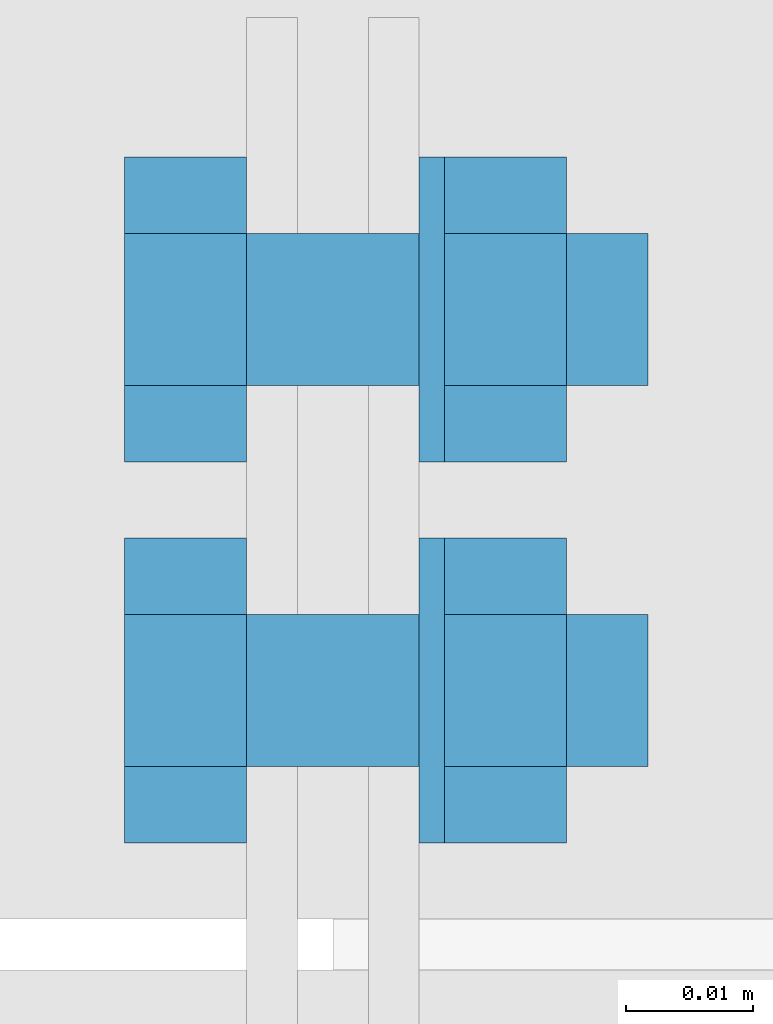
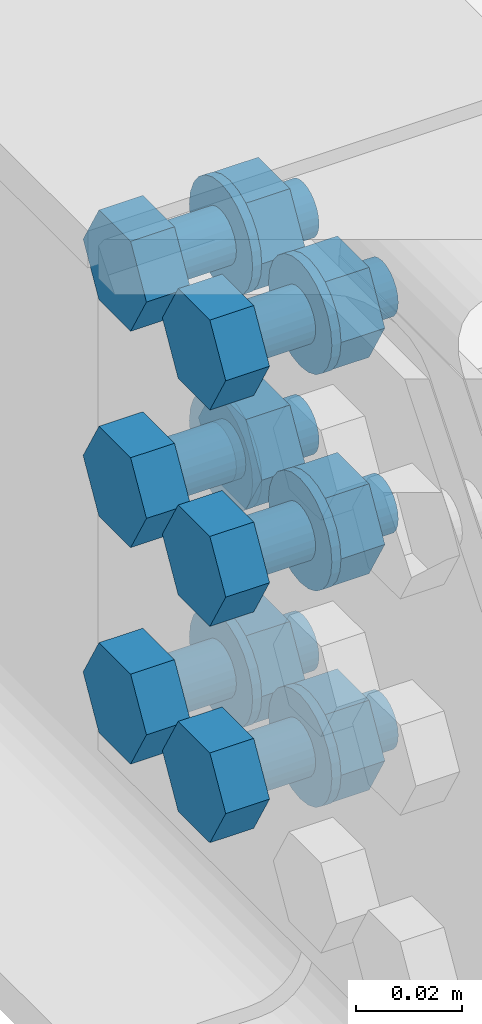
# One storey, part 72 of 84: 39 mechanical fasteners.
"""IFC4 building model written with IfcOpenShell, lengths in metres."""

from ifc_helpers import new_model, si_unit, frame, origin_with_axes, place, context, project, spatial, polyline, outline, extrude, type_object, element, save


model = new_model("IFC4")

# Units and contexts
model_context = context("Model", 3, precision=1e-05, world=origin_with_axes())
ifc_project = project(units=[si_unit("LENGTHUNIT", "METRE"), si_unit("AREAUNIT", "SQUARE_METRE"), si_unit("VOLUMEUNIT", "CUBIC_METRE"), si_unit("MASSUNIT", "GRAM", prefix="KILO"), si_unit("TIMEUNIT", "SECOND"), si_unit("PLANEANGLEUNIT", "RADIAN"), si_unit("SOLIDANGLEUNIT", "STERADIAN"), si_unit("THERMODYNAMICTEMPERATUREUNIT", "DEGREE_CELSIUS")], contexts=[model_context])

# Site, building, storey
placement_1 = place(None, origin_with_axes())
site = spatial("IfcSite", under=ifc_project, at=placement_1, Name="Italia", CompositionType="ELEMENT")
building = spatial("IfcBuilding", under=site, at=placement_1, Name="Tettoia", CompositionType="ELEMENT")
storey_placement = place(None, frame((0.0, 0.0, 4.199999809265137), z_axis=(0.0, 0.0, 1.0), x_axis=(1.0, 0.0, 0.0)))
storey = spatial("IfcBuildingStorey", under=building, at=storey_placement, Name="Storey 1", CompositionType="ELEMENT", Elevation=4.199999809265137)

# Mechanical fasteners
mechanical_fastener_type_1 = type_object("IfcMechanicalFastenerType", Name="Collegamento 0122_0114", PredefinedType="BOLT")
placement_2 = place(placement_1, origin_with_axes())
mechanical_fastener_1_placement = place(placement_2, origin_with_axes())
element("IfcMechanicalFastener", 1, at=mechanical_fastener_1_placement, inside=storey, type_object=mechanical_fastener_type_1, Name="Collegamento 0122_0114", NominalDiameter=0.0119991, context=model_context, shape_type="SweptSolid", body=[
    extrude(outline(polyline([(0.0, 0.0), (0.0119991, 0.0), (0.0179996, -0.0103922), (0.0119991, -0.0207849), (0.0, -0.0207849), (-0.00600052, -0.0103922), (0.0, 0.0)])), frame((0.0932, 16.913, 4.36039), z_axis=(-1.0, 0.0, 0.0), x_axis=(0.0, -1.0, 0.0)), (0.0, 0.0, 1.0), 0.0096),
])
mechanical_fastener_type_2 = type_object("IfcMechanicalFastenerType", Name="Collegamento 0122_0114", PredefinedType="BOLT")
mechanical_fastener_2_placement = place(placement_2, origin_with_axes())
element("IfcMechanicalFastener", 2, at=mechanical_fastener_2_placement, inside=storey, type_object=mechanical_fastener_type_2, Name="Collegamento 0122_0114", NominalDiameter=0.012, context=model_context, shape_type="SweptSolid", body=[
    extrude(outline(polyline([(0.0, 0.0), (-0.000204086, -0.00155306), (-0.000804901, -0.00299978), (-0.00175858, -0.00424242), (-0.00300026, -0.00519609), (-0.00444794, -0.00579548), (-0.00600052, -0.00600004), (-0.0075531, -0.00579548), (-0.00900078, -0.00519609), (-0.0102425, -0.00424242), (-0.0111961, -0.00299978), (-0.011797, -0.00155306), (-0.012001, 0.0), (-0.011797, 0.00155306), (-0.0111961, 0.00299978), (-0.0102425, 0.00424242), (-0.00900078, 0.00519609), (-0.0075531, 0.00579548), (-0.00600052, 0.00600004), (-0.00444794, 0.00579548), (-0.00300026, 0.00519609), (-0.00175858, 0.00424242), (-0.000804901, 0.00299978), (-0.000204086, 0.00155306), (0.0, 0.0)])), frame((0.1248, 16.901, 4.35), z_axis=(-1.0, 0.0, 0.0), x_axis=(0.0, -1.0, 0.0)), (0.0, 0.0, 1.0), 0.0316),
])
mechanical_fastener_type_3 = type_object("IfcMechanicalFastenerType", Name="Collegamento 0122_0114", PredefinedType="BOLT")
mechanical_fastener_3_placement = place(placement_2, origin_with_axes())
element("IfcMechanicalFastener", 3, at=mechanical_fastener_3_placement, inside=storey, type_object=mechanical_fastener_type_3, Name="Collegamento 0122_0114", NominalDiameter=0.0119991, context=model_context, shape_type="SweptSolid", body=[
    extrude(outline(polyline([(0.0, 0.0), (0.0119991, 0.0), (0.0179996, -0.0103922), (0.0119991, -0.0207849), (0.0, -0.0207849), (-0.00600052, -0.0103922), (0.0, 0.0)])), frame((0.1184, 16.913, 4.36039), z_axis=(-1.0, 0.0, 0.0), x_axis=(0.0, -1.0, 0.0)), (0.0, 0.0, 1.0), 0.00960001),
])
mechanical_fastener_type_4 = type_object("IfcMechanicalFastenerType", Name="Collegamento 0122_0114", PredefinedType="BOLT")
mechanical_fastener_4_placement = place(placement_2, origin_with_axes())
element("IfcMechanicalFastener", 4, at=mechanical_fastener_4_placement, inside=storey, type_object=mechanical_fastener_type_4, Name="Collegamento 0122_0114", NominalDiameter=0.024, context=model_context, shape_type="SweptSolid", body=[
    extrude(outline(polyline([(0.0, 0.0), (-0.000408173, -0.00310564), (-0.00160599, -0.00600004), (-0.00351334, -0.00848532), (-0.00599861, -0.0103922), (-0.00889397, -0.011591), (-0.0119991, -0.0120001), (-0.0151043, -0.011591), (-0.0179996, -0.0103922), (-0.0204849, -0.00848532), (-0.0223923, -0.00600004), (-0.0235901, -0.00310564), (-0.0239983, 0.0), (-0.0235901, 0.00310564), (-0.0223923, 0.00600004), (-0.0204849, 0.00848532), (-0.0179996, 0.0103922), (-0.0151043, 0.011591), (-0.0119991, 0.0120001), (-0.00889397, 0.011591), (-0.00599861, 0.0103922), (-0.00351334, 0.00848532), (-0.00160599, 0.00600004), (-0.000408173, 0.00310564), (0.0, 0.0)])), frame((0.1088, 16.895, 4.35), z_axis=(-1.0, 0.0, 0.0), x_axis=(0.0, -1.0, 0.0)), (0.0, 0.0, 1.0), 0.002),
])
mechanical_fastener_type_5 = type_object("IfcMechanicalFastenerType", Name="Collegamento 0122_0114", PredefinedType="BOLT")
mechanical_fastener_5_placement = place(placement_2, origin_with_axes())
element("IfcMechanicalFastener", 5, at=mechanical_fastener_5_placement, inside=storey, type_object=mechanical_fastener_type_5, Name="Collegamento 0122_0114", NominalDiameter=0.0119992, context=model_context, shape_type="SweptSolid", body=[
    extrude(outline(polyline([(0.0, 0.0), (0.012001, 0.0), (0.0179996, -0.0103922), (0.012001, -0.0207849), (0.0, -0.0207849), (-0.00599861, -0.0103922), (0.0, 0.0)])), frame((0.0932, 16.943, 4.36039), z_axis=(-1.0, 0.0, 0.0), x_axis=(0.0, -1.0, 0.0)), (0.0, 0.0, 1.0), 0.0096),
])
mechanical_fastener_type_6 = type_object("IfcMechanicalFastenerType", Name="Collegamento 0122_0114", PredefinedType="BOLT")
mechanical_fastener_6_placement = place(placement_2, origin_with_axes())
element("IfcMechanicalFastener", 6, at=mechanical_fastener_6_placement, inside=storey, type_object=mechanical_fastener_type_6, Name="Collegamento 0122_0114", NominalDiameter=0.012, context=model_context, shape_type="SweptSolid", body=[
    extrude(outline(polyline([(0.0, 0.0), (-0.000204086, -0.00155306), (-0.000804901, -0.00299978), (-0.00175858, -0.00424242), (-0.00300026, -0.00519609), (-0.00444794, -0.00579548), (-0.00600052, -0.00600004), (-0.0075531, -0.00579548), (-0.00900078, -0.00519609), (-0.0102425, -0.00424242), (-0.0111961, -0.00299978), (-0.011797, -0.00155306), (-0.012001, 0.0), (-0.011797, 0.00155306), (-0.0111961, 0.00299978), (-0.0102425, 0.00424242), (-0.00900078, 0.00519609), (-0.0075531, 0.00579548), (-0.00600052, 0.00600004), (-0.00444794, 0.00579548), (-0.00300026, 0.00519609), (-0.00175858, 0.00424242), (-0.000804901, 0.00299978), (-0.000204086, 0.00155306), (0.0, 0.0)])), frame((0.1248, 16.931, 4.35), z_axis=(-1.0, 0.0, 0.0), x_axis=(0.0, -1.0, 0.0)), (0.0, 0.0, 1.0), 0.0316),
])
mechanical_fastener_type_7 = type_object("IfcMechanicalFastenerType", Name="Collegamento 0122_0114", PredefinedType="BOLT")
mechanical_fastener_7_placement = place(placement_2, origin_with_axes())
element("IfcMechanicalFastener", 7, at=mechanical_fastener_7_placement, inside=storey, type_object=mechanical_fastener_type_7, Name="Collegamento 0122_0114", NominalDiameter=0.0119992, context=model_context, shape_type="SweptSolid", body=[
    extrude(outline(polyline([(0.0, 0.0), (0.012001, 0.0), (0.0179996, -0.0103922), (0.012001, -0.0207849), (0.0, -0.0207849), (-0.00599861, -0.0103922), (0.0, 0.0)])), frame((0.1184, 16.943, 4.36039), z_axis=(-1.0, 0.0, 0.0), x_axis=(0.0, -1.0, 0.0)), (0.0, 0.0, 1.0), 0.00960001),
])
mechanical_fastener_type_8 = type_object("IfcMechanicalFastenerType", Name="Collegamento 0122_0114", PredefinedType="BOLT")
mechanical_fastener_8_placement = place(placement_2, origin_with_axes())
element("IfcMechanicalFastener", 8, at=mechanical_fastener_8_placement, inside=storey, type_object=mechanical_fastener_type_8, Name="Collegamento 0122_0114", NominalDiameter=0.024, context=model_context, shape_type="SweptSolid", body=[
    extrude(outline(polyline([(0.0, 0.0), (-0.000408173, -0.00310564), (-0.00160599, -0.00600004), (-0.00351334, -0.00848532), (-0.00599861, -0.0103922), (-0.00889397, -0.011591), (-0.0119991, -0.0120001), (-0.0151043, -0.011591), (-0.0179996, -0.0103922), (-0.0204849, -0.00848532), (-0.0223923, -0.00600004), (-0.0235901, -0.00310564), (-0.0239983, 0.0), (-0.0235901, 0.00310564), (-0.0223923, 0.00600004), (-0.0204849, 0.00848532), (-0.0179996, 0.0103922), (-0.0151043, 0.011591), (-0.0119991, 0.0120001), (-0.00889397, 0.011591), (-0.00599861, 0.0103922), (-0.00351334, 0.00848532), (-0.00160599, 0.00600004), (-0.000408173, 0.00310564), (0.0, 0.0)])), frame((0.1088, 16.925, 4.35), z_axis=(-1.0, 0.0, 0.0), x_axis=(0.0, -1.0, 0.0)), (0.0, 0.0, 1.0), 0.002),
])
mechanical_fastener_type_9 = type_object("IfcMechanicalFastenerType", Name="Collegamento 0122_0114", PredefinedType="BOLT")
mechanical_fastener_9_placement = place(placement_2, origin_with_axes())
element("IfcMechanicalFastener", 9, at=mechanical_fastener_9_placement, inside=storey, type_object=mechanical_fastener_type_9, Name="Collegamento 0122_0114", NominalDiameter=0.0119991, context=model_context, shape_type="SweptSolid", body=[
    extrude(outline(polyline([(0.0, 0.0), (0.0119991, 0.0), (0.0179996, -0.0103922), (0.0119991, -0.0207844), (0.0, -0.0207844), (-0.00600052, -0.0103922), (0.0, 0.0)])), frame((0.0932, 16.913, 4.31039), z_axis=(-1.0, 0.0, 0.0), x_axis=(0.0, -1.0, 0.0)), (0.0, 0.0, 1.0), 0.0096),
])
mechanical_fastener_type_10 = type_object("IfcMechanicalFastenerType", Name="Collegamento 0122_0114", PredefinedType="BOLT")
mechanical_fastener_10_placement = place(placement_2, origin_with_axes())
element("IfcMechanicalFastener", 10, at=mechanical_fastener_10_placement, inside=storey, type_object=mechanical_fastener_type_10, Name="Collegamento 0122_0114", NominalDiameter=0.012, context=model_context, shape_type="SweptSolid", body=[
    extrude(outline(polyline([(0.0, 0.0), (-0.000204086, -0.00155306), (-0.000804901, -0.00299978), (-0.00175858, -0.00424242), (-0.00300026, -0.00519609), (-0.00444794, -0.00579548), (-0.00600052, -0.00600004), (-0.0075531, -0.00579548), (-0.00900078, -0.00519609), (-0.0102425, -0.00424242), (-0.0111961, -0.00299978), (-0.011797, -0.00155306), (-0.012001, 0.0), (-0.011797, 0.00155306), (-0.0111961, 0.00299978), (-0.0102425, 0.00424242), (-0.00900078, 0.00519609), (-0.0075531, 0.00579548), (-0.00600052, 0.00600004), (-0.00444794, 0.00579548), (-0.00300026, 0.00519609), (-0.00175858, 0.00424242), (-0.000804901, 0.00299978), (-0.000204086, 0.00155306), (0.0, 0.0)])), frame((0.1248, 16.901, 4.3), z_axis=(-1.0, 0.0, 0.0), x_axis=(0.0, -1.0, 0.0)), (0.0, 0.0, 1.0), 0.0316),
])
mechanical_fastener_type_11 = type_object("IfcMechanicalFastenerType", Name="Collegamento 0122_0114", PredefinedType="BOLT")
mechanical_fastener_11_placement = place(placement_2, origin_with_axes())
element("IfcMechanicalFastener", 11, at=mechanical_fastener_11_placement, inside=storey, type_object=mechanical_fastener_type_11, Name="Collegamento 0122_0114", NominalDiameter=0.0119991, context=model_context, shape_type="SweptSolid", body=[
    extrude(outline(polyline([(0.0, 0.0), (0.0119991, 0.0), (0.0179996, -0.0103922), (0.0119991, -0.0207844), (0.0, -0.0207844), (-0.00600052, -0.0103922), (0.0, 0.0)])), frame((0.1184, 16.913, 4.31039), z_axis=(-1.0, 0.0, 0.0), x_axis=(0.0, -1.0, 0.0)), (0.0, 0.0, 1.0), 0.00960001),
])
mechanical_fastener_type_12 = type_object("IfcMechanicalFastenerType", Name="Collegamento 0122_0114", PredefinedType="BOLT")
mechanical_fastener_12_placement = place(placement_2, origin_with_axes())
element("IfcMechanicalFastener", 12, at=mechanical_fastener_12_placement, inside=storey, type_object=mechanical_fastener_type_12, Name="Collegamento 0122_0114", NominalDiameter=0.024, context=model_context, shape_type="SweptSolid", body=[
    extrude(outline(polyline([(0.0, 0.0), (-0.000408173, -0.00310564), (-0.00160599, -0.00600004), (-0.00351334, -0.00848532), (-0.00599861, -0.0103922), (-0.00889397, -0.011591), (-0.0119991, -0.0120001), (-0.0151043, -0.011591), (-0.0179996, -0.0103922), (-0.0204849, -0.00848532), (-0.0223923, -0.00600004), (-0.0235901, -0.00310564), (-0.0239983, 0.0), (-0.0235901, 0.00310564), (-0.0223923, 0.00600004), (-0.0204849, 0.00848532), (-0.0179996, 0.0103922), (-0.0151043, 0.011591), (-0.0119991, 0.0120001), (-0.00889397, 0.011591), (-0.00599861, 0.0103922), (-0.00351334, 0.00848532), (-0.00160599, 0.00600004), (-0.000408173, 0.00310564), (0.0, 0.0)])), frame((0.1088, 16.895, 4.3), z_axis=(-1.0, 0.0, 0.0), x_axis=(0.0, -1.0, 0.0)), (0.0, 0.0, 1.0), 0.002),
])
mechanical_fastener_type_13 = type_object("IfcMechanicalFastenerType", Name="Collegamento 0122_0114", PredefinedType="BOLT")
mechanical_fastener_13_placement = place(placement_2, origin_with_axes())
element("IfcMechanicalFastener", 13, at=mechanical_fastener_13_placement, inside=storey, type_object=mechanical_fastener_type_13, Name="Collegamento 0122_0114", NominalDiameter=0.0119992, context=model_context, shape_type="SweptSolid", body=[
    extrude(outline(polyline([(0.0, 0.0), (0.012001, 0.0), (0.0179996, -0.0103922), (0.012001, -0.0207844), (0.0, -0.0207844), (-0.00599861, -0.0103922), (0.0, 0.0)])), frame((0.0932, 16.943, 4.31039), z_axis=(-1.0, 0.0, 0.0), x_axis=(0.0, -1.0, 0.0)), (0.0, 0.0, 1.0), 0.0096),
])
mechanical_fastener_type_14 = type_object("IfcMechanicalFastenerType", Name="Collegamento 0122_0114", PredefinedType="BOLT")
mechanical_fastener_14_placement = place(placement_2, origin_with_axes())
element("IfcMechanicalFastener", 14, at=mechanical_fastener_14_placement, inside=storey, type_object=mechanical_fastener_type_14, Name="Collegamento 0122_0114", NominalDiameter=0.012, context=model_context, shape_type="SweptSolid", body=[
    extrude(outline(polyline([(0.0, 0.0), (-0.000204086, -0.00155306), (-0.000804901, -0.00299978), (-0.00175858, -0.00424242), (-0.00300026, -0.00519609), (-0.00444794, -0.00579548), (-0.00600052, -0.00600004), (-0.0075531, -0.00579548), (-0.00900078, -0.00519609), (-0.0102425, -0.00424242), (-0.0111961, -0.00299978), (-0.011797, -0.00155306), (-0.012001, 0.0), (-0.011797, 0.00155306), (-0.0111961, 0.00299978), (-0.0102425, 0.00424242), (-0.00900078, 0.00519609), (-0.0075531, 0.00579548), (-0.00600052, 0.00600004), (-0.00444794, 0.00579548), (-0.00300026, 0.00519609), (-0.00175858, 0.00424242), (-0.000804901, 0.00299978), (-0.000204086, 0.00155306), (0.0, 0.0)])), frame((0.1248, 16.931, 4.3), z_axis=(-1.0, 0.0, 0.0), x_axis=(0.0, -1.0, 0.0)), (0.0, 0.0, 1.0), 0.0316),
])
mechanical_fastener_type_15 = type_object("IfcMechanicalFastenerType", Name="Collegamento 0122_0114", PredefinedType="BOLT")
mechanical_fastener_15_placement = place(placement_2, origin_with_axes())
element("IfcMechanicalFastener", 15, at=mechanical_fastener_15_placement, inside=storey, type_object=mechanical_fastener_type_15, Name="Collegamento 0122_0114", NominalDiameter=0.0119992, context=model_context, shape_type="SweptSolid", body=[
    extrude(outline(polyline([(0.0, 0.0), (0.012001, 0.0), (0.0179996, -0.0103922), (0.012001, -0.0207844), (0.0, -0.0207844), (-0.00599861, -0.0103922), (0.0, 0.0)])), frame((0.1184, 16.943, 4.31039), z_axis=(-1.0, 0.0, 0.0), x_axis=(0.0, -1.0, 0.0)), (0.0, 0.0, 1.0), 0.00960001),
])
mechanical_fastener_type_16 = type_object("IfcMechanicalFastenerType", Name="Collegamento 0122_0114", PredefinedType="BOLT")
mechanical_fastener_16_placement = place(placement_2, origin_with_axes())
element("IfcMechanicalFastener", 16, at=mechanical_fastener_16_placement, inside=storey, type_object=mechanical_fastener_type_16, Name="Collegamento 0122_0114", NominalDiameter=0.024, context=model_context, shape_type="SweptSolid", body=[
    extrude(outline(polyline([(0.0, 0.0), (-0.000408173, -0.00310564), (-0.00160599, -0.00600004), (-0.00351334, -0.00848532), (-0.00599861, -0.0103922), (-0.00889397, -0.011591), (-0.0119991, -0.0120001), (-0.0151043, -0.011591), (-0.0179996, -0.0103922), (-0.0204849, -0.00848532), (-0.0223923, -0.00600004), (-0.0235901, -0.00310564), (-0.0239983, 0.0), (-0.0235901, 0.00310564), (-0.0223923, 0.00600004), (-0.0204849, 0.00848532), (-0.0179996, 0.0103922), (-0.0151043, 0.011591), (-0.0119991, 0.0120001), (-0.00889397, 0.011591), (-0.00599861, 0.0103922), (-0.00351334, 0.00848532), (-0.00160599, 0.00600004), (-0.000408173, 0.00310564), (0.0, 0.0)])), frame((0.1088, 16.925, 4.3), z_axis=(-1.0, 0.0, 0.0), x_axis=(0.0, -1.0, 0.0)), (0.0, 0.0, 1.0), 0.002),
])
mechanical_fastener_type_17 = type_object("IfcMechanicalFastenerType", Name="Collegamento 0122_0114", PredefinedType="BOLT")
mechanical_fastener_17_placement = place(placement_2, origin_with_axes())
element("IfcMechanicalFastener", 17, at=mechanical_fastener_17_placement, inside=storey, type_object=mechanical_fastener_type_17, Name="Collegamento 0122_0114", NominalDiameter=0.0119991, context=model_context, shape_type="SweptSolid", body=[
    extrude(outline(polyline([(0.0, 0.0), (0.0119991, 0.0), (0.0179996, -0.0103927), (0.0119991, -0.0207849), (0.0, -0.0207849), (-0.00600052, -0.0103927), (0.0, 0.0)])), frame((0.0932, 16.913, 4.26039), z_axis=(-1.0, 0.0, 0.0), x_axis=(0.0, -1.0, 0.0)), (0.0, 0.0, 1.0), 0.0096),
])
mechanical_fastener_type_18 = type_object("IfcMechanicalFastenerType", Name="Collegamento 0122_0114", PredefinedType="BOLT")
mechanical_fastener_18_placement = place(placement_2, origin_with_axes())
element("IfcMechanicalFastener", 18, at=mechanical_fastener_18_placement, inside=storey, type_object=mechanical_fastener_type_18, Name="Collegamento 0122_0114", NominalDiameter=0.012, context=model_context, shape_type="SweptSolid", body=[
    extrude(outline(polyline([(0.0, 0.0), (-0.000204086, -0.00155306), (-0.000804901, -0.00299978), (-0.00175858, -0.00424242), (-0.00300026, -0.00519609), (-0.00444794, -0.00579548), (-0.00600052, -0.00600004), (-0.0075531, -0.00579548), (-0.00900078, -0.00519609), (-0.0102425, -0.00424242), (-0.0111961, -0.00299978), (-0.011797, -0.00155306), (-0.012001, 0.0), (-0.011797, 0.00155306), (-0.0111961, 0.00299978), (-0.0102425, 0.00424242), (-0.00900078, 0.00519609), (-0.0075531, 0.00579548), (-0.00600052, 0.00600004), (-0.00444794, 0.00579548), (-0.00300026, 0.00519609), (-0.00175858, 0.00424242), (-0.000804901, 0.00299978), (-0.000204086, 0.00155306), (0.0, 0.0)])), frame((0.1248, 16.901, 4.25), z_axis=(-1.0, 0.0, 0.0), x_axis=(0.0, -1.0, 0.0)), (0.0, 0.0, 1.0), 0.0316),
])
mechanical_fastener_type_19 = type_object("IfcMechanicalFastenerType", Name="Collegamento 0122_0114", PredefinedType="BOLT")
mechanical_fastener_19_placement = place(placement_2, origin_with_axes())
element("IfcMechanicalFastener", 19, at=mechanical_fastener_19_placement, inside=storey, type_object=mechanical_fastener_type_19, Name="Collegamento 0122_0114", NominalDiameter=0.0119991, context=model_context, shape_type="SweptSolid", body=[
    extrude(outline(polyline([(0.0, 0.0), (0.0119991, 0.0), (0.0179996, -0.0103927), (0.0119991, -0.0207849), (0.0, -0.0207849), (-0.00600052, -0.0103927), (0.0, 0.0)])), frame((0.1184, 16.913, 4.26039), z_axis=(-1.0, 0.0, 0.0), x_axis=(0.0, -1.0, 0.0)), (0.0, 0.0, 1.0), 0.00960001),
])
mechanical_fastener_type_20 = type_object("IfcMechanicalFastenerType", Name="Collegamento 0122_0114", PredefinedType="BOLT")
mechanical_fastener_20_placement = place(placement_2, origin_with_axes())
element("IfcMechanicalFastener", 20, at=mechanical_fastener_20_placement, inside=storey, type_object=mechanical_fastener_type_20, Name="Collegamento 0122_0114", NominalDiameter=0.024, context=model_context, shape_type="SweptSolid", body=[
    extrude(outline(polyline([(0.0, 0.0), (-0.000408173, -0.00310564), (-0.00160599, -0.00600004), (-0.00351334, -0.00848532), (-0.00599861, -0.0103922), (-0.00889397, -0.011591), (-0.0119991, -0.0120001), (-0.0151043, -0.011591), (-0.0179996, -0.0103922), (-0.0204849, -0.00848532), (-0.0223923, -0.00600004), (-0.0235901, -0.00310564), (-0.0239983, 0.0), (-0.0235901, 0.00310564), (-0.0223923, 0.00600004), (-0.0204849, 0.00848532), (-0.0179996, 0.0103922), (-0.0151043, 0.011591), (-0.0119991, 0.0120001), (-0.00889397, 0.011591), (-0.00599861, 0.0103922), (-0.00351334, 0.00848532), (-0.00160599, 0.00600004), (-0.000408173, 0.00310564), (0.0, 0.0)])), frame((0.1088, 16.895, 4.25), z_axis=(-1.0, 0.0, 0.0), x_axis=(0.0, -1.0, 0.0)), (0.0, 0.0, 1.0), 0.002),
])
mechanical_fastener_type_21 = type_object("IfcMechanicalFastenerType", Name="Collegamento 0122_0114", PredefinedType="BOLT")
mechanical_fastener_21_placement = place(placement_2, origin_with_axes())
element("IfcMechanicalFastener", 21, at=mechanical_fastener_21_placement, inside=storey, type_object=mechanical_fastener_type_21, Name="Collegamento 0122_0114", NominalDiameter=0.0119992, context=model_context, shape_type="SweptSolid", body=[
    extrude(outline(polyline([(0.0, 0.0), (0.012001, 0.0), (0.0179996, -0.0103927), (0.012001, -0.0207849), (0.0, -0.0207849), (-0.00599861, -0.0103927), (0.0, 0.0)])), frame((0.0932, 16.943, 4.26039), z_axis=(-1.0, 0.0, 0.0), x_axis=(0.0, -1.0, 0.0)), (0.0, 0.0, 1.0), 0.0096),
])
mechanical_fastener_type_22 = type_object("IfcMechanicalFastenerType", Name="Collegamento 0122_0114", PredefinedType="BOLT")
mechanical_fastener_22_placement = place(placement_2, origin_with_axes())
element("IfcMechanicalFastener", 22, at=mechanical_fastener_22_placement, inside=storey, type_object=mechanical_fastener_type_22, Name="Collegamento 0122_0114", NominalDiameter=0.012, context=model_context, shape_type="SweptSolid", body=[
    extrude(outline(polyline([(0.0, 0.0), (-0.000204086, -0.00155306), (-0.000804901, -0.00299978), (-0.00175858, -0.00424242), (-0.00300026, -0.00519609), (-0.00444794, -0.00579548), (-0.00600052, -0.00600004), (-0.0075531, -0.00579548), (-0.00900078, -0.00519609), (-0.0102425, -0.00424242), (-0.0111961, -0.00299978), (-0.011797, -0.00155306), (-0.012001, 0.0), (-0.011797, 0.00155306), (-0.0111961, 0.00299978), (-0.0102425, 0.00424242), (-0.00900078, 0.00519609), (-0.0075531, 0.00579548), (-0.00600052, 0.00600004), (-0.00444794, 0.00579548), (-0.00300026, 0.00519609), (-0.00175858, 0.00424242), (-0.000804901, 0.00299978), (-0.000204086, 0.00155306), (0.0, 0.0)])), frame((0.1248, 16.931, 4.25), z_axis=(-1.0, 0.0, 0.0), x_axis=(0.0, -1.0, 0.0)), (0.0, 0.0, 1.0), 0.0316),
])
mechanical_fastener_type_23 = type_object("IfcMechanicalFastenerType", Name="Collegamento 0122_0114", PredefinedType="BOLT")
mechanical_fastener_23_placement = place(placement_2, origin_with_axes())
element("IfcMechanicalFastener", 23, at=mechanical_fastener_23_placement, inside=storey, type_object=mechanical_fastener_type_23, Name="Collegamento 0122_0114", NominalDiameter=0.0119992, context=model_context, shape_type="SweptSolid", body=[
    extrude(outline(polyline([(0.0, 0.0), (0.012001, 0.0), (0.0179996, -0.0103927), (0.012001, -0.0207849), (0.0, -0.0207849), (-0.00599861, -0.0103927), (0.0, 0.0)])), frame((0.1184, 16.943, 4.26039), z_axis=(-1.0, 0.0, 0.0), x_axis=(0.0, -1.0, 0.0)), (0.0, 0.0, 1.0), 0.00960001),
])
mechanical_fastener_type_24 = type_object("IfcMechanicalFastenerType", Name="Collegamento 0122_0114", PredefinedType="BOLT")
mechanical_fastener_24_placement = place(placement_2, origin_with_axes())
element("IfcMechanicalFastener", 24, at=mechanical_fastener_24_placement, inside=storey, type_object=mechanical_fastener_type_24, Name="Collegamento 0122_0114", NominalDiameter=0.024, context=model_context, shape_type="SweptSolid", body=[
    extrude(outline(polyline([(0.0, 0.0), (-0.000408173, -0.00310564), (-0.00160599, -0.00600004), (-0.00351334, -0.00848532), (-0.00599861, -0.0103922), (-0.00889397, -0.011591), (-0.0119991, -0.0120001), (-0.0151043, -0.011591), (-0.0179996, -0.0103922), (-0.0204849, -0.00848532), (-0.0223923, -0.00600004), (-0.0235901, -0.00310564), (-0.0239983, 0.0), (-0.0235901, 0.00310564), (-0.0223923, 0.00600004), (-0.0204849, 0.00848532), (-0.0179996, 0.0103922), (-0.0151043, 0.011591), (-0.0119991, 0.0120001), (-0.00889397, 0.011591), (-0.00599861, 0.0103922), (-0.00351334, 0.00848532), (-0.00160599, 0.00600004), (-0.000408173, 0.00310564), (0.0, 0.0)])), frame((0.1088, 16.925, 4.25), z_axis=(-1.0, 0.0, 0.0), x_axis=(0.0, -1.0, 0.0)), (0.0, 0.0, 1.0), 0.002),
])
mechanical_fastener_type_25 = type_object("IfcMechanicalFastenerType", Name="Collegamento 0122_0114", PredefinedType="BOLT")
mechanical_fastener_25_placement = place(placement_2, origin_with_axes())
element("IfcMechanicalFastener", 25, at=mechanical_fastener_25_placement, inside=storey, type_object=mechanical_fastener_type_25, Name="Collegamento 0122_0114", NominalDiameter=0.0119991, context=model_context, shape_type="SweptSolid", body=[
    extrude(outline(polyline([(0.0, 0.0), (0.0119991, 0.0), (0.0179996, -0.0103922), (0.0119991, -0.0207849), (0.0, -0.0207849), (-0.00600052, -0.0103922), (0.0, 0.0)])), frame((0.0932, 16.913, 4.36039), z_axis=(-1.0, 0.0, 0.0), x_axis=(0.0, -1.0, 0.0)), (0.0, 0.0, 1.0), 0.0096),
])
mechanical_fastener_type_26 = type_object("IfcMechanicalFastenerType", Name="Collegamento 0122_0114", PredefinedType="BOLT")
mechanical_fastener_26_placement = place(placement_2, origin_with_axes())
element("IfcMechanicalFastener", 26, at=mechanical_fastener_26_placement, inside=storey, type_object=mechanical_fastener_type_26, Name="Collegamento 0122_0114", NominalDiameter=0.012, context=model_context, shape_type="SweptSolid", body=[
    extrude(outline(polyline([(0.0, 0.0), (-0.000204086, -0.00155306), (-0.000804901, -0.00299978), (-0.00175858, -0.00424242), (-0.00300026, -0.00519609), (-0.00444794, -0.00579548), (-0.00600052, -0.00600004), (-0.0075531, -0.00579548), (-0.00900078, -0.00519609), (-0.0102425, -0.00424242), (-0.0111961, -0.00299978), (-0.011797, -0.00155306), (-0.012001, 0.0), (-0.011797, 0.00155306), (-0.0111961, 0.00299978), (-0.0102425, 0.00424242), (-0.00900078, 0.00519609), (-0.0075531, 0.00579548), (-0.00600052, 0.00600004), (-0.00444794, 0.00579548), (-0.00300026, 0.00519609), (-0.00175858, 0.00424242), (-0.000804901, 0.00299978), (-0.000204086, 0.00155306), (0.0, 0.0)])), frame((0.1248, 16.901, 4.35), z_axis=(-1.0, 0.0, 0.0), x_axis=(0.0, -1.0, 0.0)), (0.0, 0.0, 1.0), 0.0316),
])
mechanical_fastener_type_27 = type_object("IfcMechanicalFastenerType", Name="Collegamento 0122_0114", PredefinedType="BOLT")
mechanical_fastener_27_placement = place(placement_2, origin_with_axes())
element("IfcMechanicalFastener", 27, at=mechanical_fastener_27_placement, inside=storey, type_object=mechanical_fastener_type_27, Name="Collegamento 0122_0114", NominalDiameter=0.0119991, context=model_context, shape_type="SweptSolid", body=[
    extrude(outline(polyline([(0.0, 0.0), (0.0119991, 0.0), (0.0179996, -0.0103922), (0.0119991, -0.0207849), (0.0, -0.0207849), (-0.00600052, -0.0103922), (0.0, 0.0)])), frame((0.1184, 16.913, 4.36039), z_axis=(-1.0, 0.0, 0.0), x_axis=(0.0, -1.0, 0.0)), (0.0, 0.0, 1.0), 0.00960001),
])
mechanical_fastener_type_28 = type_object("IfcMechanicalFastenerType", Name="Collegamento 0122_0114", PredefinedType="BOLT")
mechanical_fastener_28_placement = place(placement_2, origin_with_axes())
element("IfcMechanicalFastener", 28, at=mechanical_fastener_28_placement, inside=storey, type_object=mechanical_fastener_type_28, Name="Collegamento 0122_0114", NominalDiameter=0.024, context=model_context, shape_type="SweptSolid", body=[
    extrude(outline(polyline([(0.0, 0.0), (-0.000408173, -0.00310564), (-0.00160599, -0.00600004), (-0.00351334, -0.00848532), (-0.00599861, -0.0103922), (-0.00889397, -0.011591), (-0.0119991, -0.0120001), (-0.0151043, -0.011591), (-0.0179996, -0.0103922), (-0.0204849, -0.00848532), (-0.0223923, -0.00600004), (-0.0235901, -0.00310564), (-0.0239983, 0.0), (-0.0235901, 0.00310564), (-0.0223923, 0.00600004), (-0.0204849, 0.00848532), (-0.0179996, 0.0103922), (-0.0151043, 0.011591), (-0.0119991, 0.0120001), (-0.00889397, 0.011591), (-0.00599861, 0.0103922), (-0.00351334, 0.00848532), (-0.00160599, 0.00600004), (-0.000408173, 0.00310564), (0.0, 0.0)])), frame((0.1088, 16.895, 4.35), z_axis=(-1.0, 0.0, 0.0), x_axis=(0.0, -1.0, 0.0)), (0.0, 0.0, 1.0), 0.002),
])
mechanical_fastener_type_29 = type_object("IfcMechanicalFastenerType", Name="Collegamento 0122_0114", PredefinedType="BOLT")
mechanical_fastener_29_placement = place(placement_2, origin_with_axes())
element("IfcMechanicalFastener", 29, at=mechanical_fastener_29_placement, inside=storey, type_object=mechanical_fastener_type_29, Name="Collegamento 0122_0114", NominalDiameter=0.0119992, context=model_context, shape_type="SweptSolid", body=[
    extrude(outline(polyline([(0.0, 0.0), (0.012001, 0.0), (0.0179996, -0.0103922), (0.012001, -0.0207849), (0.0, -0.0207849), (-0.00599861, -0.0103922), (0.0, 0.0)])), frame((0.0932, 16.943, 4.36039), z_axis=(-1.0, 0.0, 0.0), x_axis=(0.0, -1.0, 0.0)), (0.0, 0.0, 1.0), 0.0096),
])
mechanical_fastener_type_30 = type_object("IfcMechanicalFastenerType", Name="Collegamento 0122_0114", PredefinedType="BOLT")
mechanical_fastener_30_placement = place(placement_2, origin_with_axes())
element("IfcMechanicalFastener", 30, at=mechanical_fastener_30_placement, inside=storey, type_object=mechanical_fastener_type_30, Name="Collegamento 0122_0114", NominalDiameter=0.012, context=model_context, shape_type="SweptSolid", body=[
    extrude(outline(polyline([(0.0, 0.0), (-0.000204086, -0.00155306), (-0.000804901, -0.00299978), (-0.00175858, -0.00424242), (-0.00300026, -0.00519609), (-0.00444794, -0.00579548), (-0.00600052, -0.00600004), (-0.0075531, -0.00579548), (-0.00900078, -0.00519609), (-0.0102425, -0.00424242), (-0.0111961, -0.00299978), (-0.011797, -0.00155306), (-0.012001, 0.0), (-0.011797, 0.00155306), (-0.0111961, 0.00299978), (-0.0102425, 0.00424242), (-0.00900078, 0.00519609), (-0.0075531, 0.00579548), (-0.00600052, 0.00600004), (-0.00444794, 0.00579548), (-0.00300026, 0.00519609), (-0.00175858, 0.00424242), (-0.000804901, 0.00299978), (-0.000204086, 0.00155306), (0.0, 0.0)])), frame((0.1248, 16.931, 4.35), z_axis=(-1.0, 0.0, 0.0), x_axis=(0.0, -1.0, 0.0)), (0.0, 0.0, 1.0), 0.0316),
])
mechanical_fastener_type_31 = type_object("IfcMechanicalFastenerType", Name="Collegamento 0122_0114", PredefinedType="BOLT")
mechanical_fastener_31_placement = place(placement_2, origin_with_axes())
element("IfcMechanicalFastener", 31, at=mechanical_fastener_31_placement, inside=storey, type_object=mechanical_fastener_type_31, Name="Collegamento 0122_0114", NominalDiameter=0.0119992, context=model_context, shape_type="SweptSolid", body=[
    extrude(outline(polyline([(0.0, 0.0), (0.012001, 0.0), (0.0179996, -0.0103922), (0.012001, -0.0207849), (0.0, -0.0207849), (-0.00599861, -0.0103922), (0.0, 0.0)])), frame((0.1184, 16.943, 4.36039), z_axis=(-1.0, 0.0, 0.0), x_axis=(0.0, -1.0, 0.0)), (0.0, 0.0, 1.0), 0.00960001),
])
mechanical_fastener_type_32 = type_object("IfcMechanicalFastenerType", Name="Collegamento 0122_0114", PredefinedType="BOLT")
mechanical_fastener_32_placement = place(placement_2, origin_with_axes())
element("IfcMechanicalFastener", 32, at=mechanical_fastener_32_placement, inside=storey, type_object=mechanical_fastener_type_32, Name="Collegamento 0122_0114", NominalDiameter=0.024, context=model_context, shape_type="SweptSolid", body=[
    extrude(outline(polyline([(0.0, 0.0), (-0.000408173, -0.00310564), (-0.00160599, -0.00600004), (-0.00351334, -0.00848532), (-0.00599861, -0.0103922), (-0.00889397, -0.011591), (-0.0119991, -0.0120001), (-0.0151043, -0.011591), (-0.0179996, -0.0103922), (-0.0204849, -0.00848532), (-0.0223923, -0.00600004), (-0.0235901, -0.00310564), (-0.0239983, 0.0), (-0.0235901, 0.00310564), (-0.0223923, 0.00600004), (-0.0204849, 0.00848532), (-0.0179996, 0.0103922), (-0.0151043, 0.011591), (-0.0119991, 0.0120001), (-0.00889397, 0.011591), (-0.00599861, 0.0103922), (-0.00351334, 0.00848532), (-0.00160599, 0.00600004), (-0.000408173, 0.00310564), (0.0, 0.0)])), frame((0.1088, 16.925, 4.35), z_axis=(-1.0, 0.0, 0.0), x_axis=(0.0, -1.0, 0.0)), (0.0, 0.0, 1.0), 0.002),
])
mechanical_fastener_type_33 = type_object("IfcMechanicalFastenerType", Name="Collegamento 0122_0114", PredefinedType="BOLT")
mechanical_fastener_33_placement = place(placement_2, origin_with_axes())
element("IfcMechanicalFastener", 33, at=mechanical_fastener_33_placement, inside=storey, type_object=mechanical_fastener_type_33, Name="Collegamento 0122_0114", NominalDiameter=0.0119991, context=model_context, shape_type="SweptSolid", body=[
    extrude(outline(polyline([(0.0, 0.0), (0.0119991, 0.0), (0.0179996, -0.0103922), (0.0119991, -0.0207844), (0.0, -0.0207844), (-0.00600052, -0.0103922), (0.0, 0.0)])), frame((0.0932, 16.913, 4.31039), z_axis=(-1.0, 0.0, 0.0), x_axis=(0.0, -1.0, 0.0)), (0.0, 0.0, 1.0), 0.0096),
])
mechanical_fastener_type_34 = type_object("IfcMechanicalFastenerType", Name="Collegamento 0122_0114", PredefinedType="BOLT")
mechanical_fastener_34_placement = place(placement_2, origin_with_axes())
element("IfcMechanicalFastener", 34, at=mechanical_fastener_34_placement, inside=storey, type_object=mechanical_fastener_type_34, Name="Collegamento 0122_0114", NominalDiameter=0.012, context=model_context, shape_type="SweptSolid", body=[
    extrude(outline(polyline([(0.0, 0.0), (-0.000204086, -0.00155306), (-0.000804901, -0.00299978), (-0.00175858, -0.00424242), (-0.00300026, -0.00519609), (-0.00444794, -0.00579548), (-0.00600052, -0.00600004), (-0.0075531, -0.00579548), (-0.00900078, -0.00519609), (-0.0102425, -0.00424242), (-0.0111961, -0.00299978), (-0.011797, -0.00155306), (-0.012001, 0.0), (-0.011797, 0.00155306), (-0.0111961, 0.00299978), (-0.0102425, 0.00424242), (-0.00900078, 0.00519609), (-0.0075531, 0.00579548), (-0.00600052, 0.00600004), (-0.00444794, 0.00579548), (-0.00300026, 0.00519609), (-0.00175858, 0.00424242), (-0.000804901, 0.00299978), (-0.000204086, 0.00155306), (0.0, 0.0)])), frame((0.1248, 16.901, 4.3), z_axis=(-1.0, 0.0, 0.0), x_axis=(0.0, -1.0, 0.0)), (0.0, 0.0, 1.0), 0.0316),
])
mechanical_fastener_type_35 = type_object("IfcMechanicalFastenerType", Name="Collegamento 0122_0114", PredefinedType="BOLT")
mechanical_fastener_35_placement = place(placement_2, origin_with_axes())
element("IfcMechanicalFastener", 35, at=mechanical_fastener_35_placement, inside=storey, type_object=mechanical_fastener_type_35, Name="Collegamento 0122_0114", NominalDiameter=0.0119991, context=model_context, shape_type="SweptSolid", body=[
    extrude(outline(polyline([(0.0, 0.0), (0.0119991, 0.0), (0.0179996, -0.0103922), (0.0119991, -0.0207844), (0.0, -0.0207844), (-0.00600052, -0.0103922), (0.0, 0.0)])), frame((0.1184, 16.913, 4.31039), z_axis=(-1.0, 0.0, 0.0), x_axis=(0.0, -1.0, 0.0)), (0.0, 0.0, 1.0), 0.00960001),
])
mechanical_fastener_type_36 = type_object("IfcMechanicalFastenerType", Name="Collegamento 0122_0114", PredefinedType="BOLT")
mechanical_fastener_36_placement = place(placement_2, origin_with_axes())
element("IfcMechanicalFastener", 36, at=mechanical_fastener_36_placement, inside=storey, type_object=mechanical_fastener_type_36, Name="Collegamento 0122_0114", NominalDiameter=0.024, context=model_context, shape_type="SweptSolid", body=[
    extrude(outline(polyline([(0.0, 0.0), (-0.000408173, -0.00310564), (-0.00160599, -0.00600004), (-0.00351334, -0.00848532), (-0.00599861, -0.0103922), (-0.00889397, -0.011591), (-0.0119991, -0.0120001), (-0.0151043, -0.011591), (-0.0179996, -0.0103922), (-0.0204849, -0.00848532), (-0.0223923, -0.00600004), (-0.0235901, -0.00310564), (-0.0239983, 0.0), (-0.0235901, 0.00310564), (-0.0223923, 0.00600004), (-0.0204849, 0.00848532), (-0.0179996, 0.0103922), (-0.0151043, 0.011591), (-0.0119991, 0.0120001), (-0.00889397, 0.011591), (-0.00599861, 0.0103922), (-0.00351334, 0.00848532), (-0.00160599, 0.00600004), (-0.000408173, 0.00310564), (0.0, 0.0)])), frame((0.1088, 16.895, 4.3), z_axis=(-1.0, 0.0, 0.0), x_axis=(0.0, -1.0, 0.0)), (0.0, 0.0, 1.0), 0.002),
])
mechanical_fastener_type_37 = type_object("IfcMechanicalFastenerType", Name="Collegamento 0122_0114", PredefinedType="BOLT")
mechanical_fastener_37_placement = place(placement_2, origin_with_axes())
element("IfcMechanicalFastener", 37, at=mechanical_fastener_37_placement, inside=storey, type_object=mechanical_fastener_type_37, Name="Collegamento 0122_0114", NominalDiameter=0.0119992, context=model_context, shape_type="SweptSolid", body=[
    extrude(outline(polyline([(0.0, 0.0), (0.012001, 0.0), (0.0179996, -0.0103922), (0.012001, -0.0207844), (0.0, -0.0207844), (-0.00599861, -0.0103922), (0.0, 0.0)])), frame((0.0932, 16.943, 4.31039), z_axis=(-1.0, 0.0, 0.0), x_axis=(0.0, -1.0, 0.0)), (0.0, 0.0, 1.0), 0.0096),
])
mechanical_fastener_type_38 = type_object("IfcMechanicalFastenerType", Name="Collegamento 0122_0114", PredefinedType="BOLT")
mechanical_fastener_38_placement = place(placement_2, origin_with_axes())
element("IfcMechanicalFastener", 38, at=mechanical_fastener_38_placement, inside=storey, type_object=mechanical_fastener_type_38, Name="Collegamento 0122_0114", NominalDiameter=0.012, context=model_context, shape_type="SweptSolid", body=[
    extrude(outline(polyline([(0.0, 0.0), (-0.000204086, -0.00155306), (-0.000804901, -0.00299978), (-0.00175858, -0.00424242), (-0.00300026, -0.00519609), (-0.00444794, -0.00579548), (-0.00600052, -0.00600004), (-0.0075531, -0.00579548), (-0.00900078, -0.00519609), (-0.0102425, -0.00424242), (-0.0111961, -0.00299978), (-0.011797, -0.00155306), (-0.012001, 0.0), (-0.011797, 0.00155306), (-0.0111961, 0.00299978), (-0.0102425, 0.00424242), (-0.00900078, 0.00519609), (-0.0075531, 0.00579548), (-0.00600052, 0.00600004), (-0.00444794, 0.00579548), (-0.00300026, 0.00519609), (-0.00175858, 0.00424242), (-0.000804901, 0.00299978), (-0.000204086, 0.00155306), (0.0, 0.0)])), frame((0.1248, 16.931, 4.3), z_axis=(-1.0, 0.0, 0.0), x_axis=(0.0, -1.0, 0.0)), (0.0, 0.0, 1.0), 0.0316),
])
mechanical_fastener_type_39 = type_object("IfcMechanicalFastenerType", Name="Collegamento 0122_0114", PredefinedType="BOLT")
mechanical_fastener_39_placement = place(placement_2, origin_with_axes())
element("IfcMechanicalFastener", 39, at=mechanical_fastener_39_placement, inside=storey, type_object=mechanical_fastener_type_39, Name="Collegamento 0122_0114", NominalDiameter=0.0119992, context=model_context, shape_type="SweptSolid", body=[
    extrude(outline(polyline([(0.0, 0.0), (0.012001, 0.0), (0.0179996, -0.0103922), (0.012001, -0.0207844), (0.0, -0.0207844), (-0.00599861, -0.0103922), (0.0, 0.0)])), frame((0.1184, 16.943, 4.31039), z_axis=(-1.0, 0.0, 0.0), x_axis=(0.0, -1.0, 0.0)), (0.0, 0.0, 1.0), 0.00960001),
])

save(model, "model.ifc")
